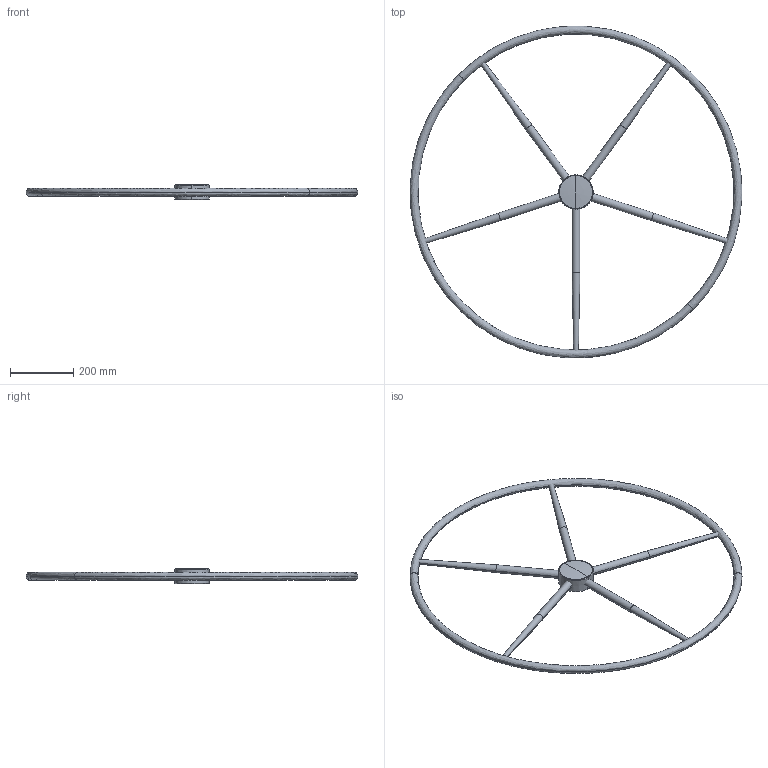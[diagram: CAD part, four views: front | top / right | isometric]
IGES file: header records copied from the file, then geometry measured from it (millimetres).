
Start section: Missler Software 3 rue Hermes, EUROPARC, 31520 Ramonville-Saint-Agne, France Tel   : +33 (0)5 61 00 03 00 Fax   : +33 (0)5 61 00 03 03 Email : sup.solid@topsolid.com
Global section: file name: Z:\J\Jp3\Barre à roue\roue 5 simple rayons\5 spokes Alu or  stainless.igs; native system: TopSolid v611200 Missler Software; preprocessor: IGES preprocessor v100000; author: Alex Rogeon; date: 120223.151229; units: millimetre
Bounding box: 1049.38 x 1048.22 x 48.84 mm (x, y, z)
Surface area: 489099.4 mm2 (no closed solid volume)
Topology: 0 solids, 0 shells, 89 faces, 553 edges, 525 vertices
Faces by surface type: bspline 89
